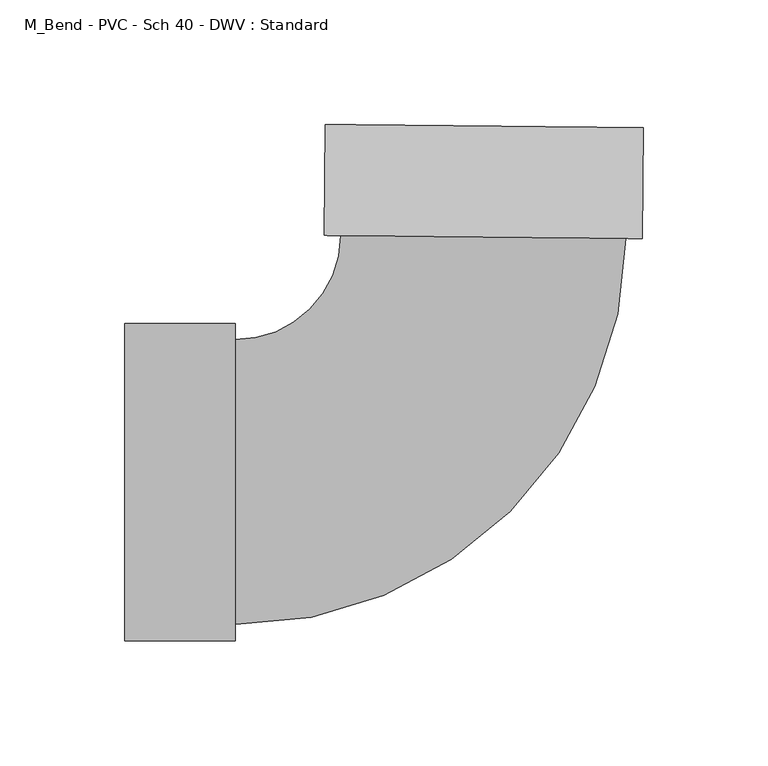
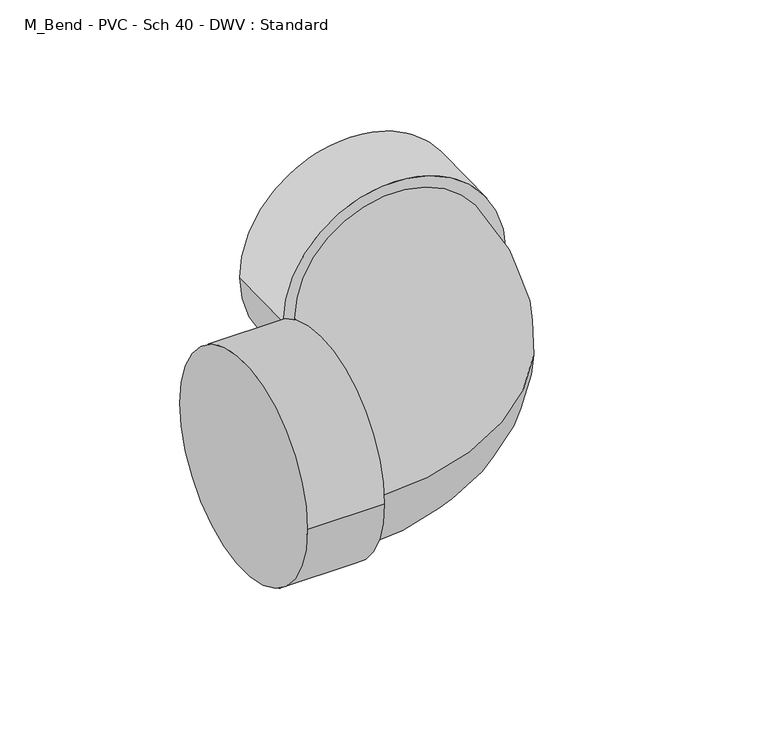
"""IFC4 building model written with IfcOpenShell, lengths in millimetres: pipe fitting geometry, M_Bend - PVC - Sch 40 - DWV : Standard."""

import ifcopenshell
import ifcopenshell.guid

model = None  # the IFC model being written
_history = None  # IfcOwnerHistory: only IFC2X3 demands one
_inside = {}  # id of a spatial element -> (the spatial element, [elements in it])
_under = {}  # id of a project, library or spatial element -> (it, [spatial elements below it])
_declared = {}  # id of a project -> (the project, [libraries it declares])
_typed = {}  # id of a type object -> (the type object, [elements of that type])
_made_of = {}  # id of a material, layer set ... -> (it, [elements and type objects made of it])


def new_model(schema):
    """Start an empty IFC model of exactly this schema.

    Asked for "IFC4X3", IfcOpenShell would pick the latest addendum, in which some entities
    have other attributes; the version numbers below select the first issue.
    IFC2X3 requires an IfcOwnerHistory on every rooted entity: one is made here for all.
    """
    global model, _history
    if schema == "IFC4X3":
        model = ifcopenshell.file(schema_version=(4, 3, 0, 0))
    else:
        model = ifcopenshell.file(schema=schema)
    _inside.clear()
    _under.clear()
    _declared.clear()
    _typed.clear()
    _made_of.clear()
    _history = None
    if model.schema == "IFC2X3":
        org = make("IfcOrganization", Name="unknown")
        user = make(
            "IfcPersonAndOrganization",
            ThePerson=make("IfcPerson", FamilyName="unknown"),
            TheOrganization=org,
        )
        app = make(
            "IfcApplication",
            ApplicationDeveloper=org,
            Version="unknown",
            ApplicationFullName="unknown",
            ApplicationIdentifier="unknown",
        )
        _history = make(
            "IfcOwnerHistory",
            OwningUser=user,
            OwningApplication=app,
            ChangeAction="ADDED",
            CreationDate=0,
        )
    return model


def make(cls, **values):
    """One entity of the class cls with the attributes given. An attribute that is None is left unset."""
    return model.create_entity(
        cls, **{name: value for name, value in values.items() if value is not None}
    )


def rooted(cls, **values):
    """An entity with a GlobalId (a new one), such as an element, a storey or a relation."""
    return make(cls, GlobalId=ifcopenshell.guid.new(), OwnerHistory=_history, **values)


def si_unit(unit_type, name, prefix=None):
    """IfcSIUnit, for example si_unit("LENGTHUNIT", "METRE", prefix="MILLI")."""
    return make("IfcSIUnit", UnitType=unit_type, Prefix=prefix, Name=name)


def assignment(units):
    """IfcUnitAssignment: the units of a project."""
    return None if units is None else make("IfcUnitAssignment", Units=units)


def point(xyz):
    """IfcCartesianPoint."""
    return None if xyz is None else make("IfcCartesianPoint", Coordinates=xyz)


def direction(xyz):
    """IfcDirection."""
    return None if xyz is None else make("IfcDirection", DirectionRatios=xyz)


def frame(location, z_axis=None, x_axis=None):
    """IfcAxis2Placement3D, a coordinate frame: its origin and axes. An axis left out is left unset."""
    return make(
        "IfcAxis2Placement3D",
        Location=point(location),
        Axis=direction(z_axis),
        RefDirection=direction(x_axis),
    )


def origin():
    """The frame at (0, 0, 0) with its axes left unset."""
    return frame((0.0, 0.0, 0.0))


def place(relative_to, where):
    """IfcLocalPlacement: puts the frame where relative to a parent placement (None: the world)."""
    return make(
        "IfcLocalPlacement", PlacementRelTo=relative_to, RelativePlacement=where
    )


def context(
    kind, dimensions, precision=None, world=None, true_north=None, identifier=None
):
    """IfcGeometricRepresentationContext, for example the 3D "Model" context."""
    return make(
        "IfcGeometricRepresentationContext",
        ContextIdentifier=identifier,
        ContextType=kind,
        CoordinateSpaceDimension=dimensions,
        Precision=precision,
        WorldCoordinateSystem=world,
        TrueNorth=true_north,
    )


def project(units=None, contexts=None):
    """IfcProject with its units and contexts."""
    return rooted(
        "IfcProject",
        Name="project",
        RepresentationContexts=contexts,
        UnitsInContext=assignment(units),
    )


def spatial(cls, under=None, at=None, **own):
    """A site, building, storey or space (cls), placed at a placement, below another one or the project."""
    s = rooted(cls, ObjectPlacement=at, **own)
    if under is not None:
        _under.setdefault(under.id(), (under, []))[1].append(s)
    return s


def circle_curve(where, radius):
    """IfcCircle in the frame where."""
    return make("IfcCircle", Position=where, Radius=radius)


def ellipse_curve(where, semi_axis1, semi_axis2):
    """IfcEllipse in the frame where."""
    return make(
        "IfcEllipse", Position=where, SemiAxis1=semi_axis1, SemiAxis2=semi_axis2
    )


def trimmed(basis, trim1, trim2, sense, master):
    """IfcTrimmedCurve: the piece of a basis curve between two trims."""
    return make(
        "IfcTrimmedCurve",
        BasisCurve=basis,
        Trim1=trim1,
        Trim2=trim2,
        SenseAgreement=sense,
        MasterRepresentation=master,
    )


def shape(context_of_items, identifier, shape_type, items):
    """IfcShapeRepresentation: the items that make up one representation, for example the "Body"."""
    return make(
        "IfcShapeRepresentation",
        ContextOfItems=context_of_items,
        RepresentationIdentifier=identifier,
        RepresentationType=shape_type,
        Items=items,
    )


def source(mapping_origin, context_of_items, identifier, shape_type, items):
    """IfcRepresentationMap: a shape defined once, which mapped items show again and again."""
    return make(
        "IfcRepresentationMap",
        MappingOrigin=mapping_origin,
        MappedRepresentation=shape(context_of_items, identifier, shape_type, items),
    )


def transform(
    local_origin,
    x_axis=None,
    y_axis=None,
    z_axis=None,
    scale=None,
    scale2=None,
    scale3=None,
    uniform=True,
):
    """IfcCartesianTransformationOperator3D, or its non-uniform kind. x_axis, y_axis, z_axis: its Axis1, 2, 3."""
    if uniform:
        return make(
            "IfcCartesianTransformationOperator3D",
            Axis1=direction(x_axis),
            Axis2=direction(y_axis),
            LocalOrigin=point(local_origin),
            Scale=scale,
            Axis3=direction(z_axis),
        )
    return make(
        "IfcCartesianTransformationOperator3DnonUniform",
        Axis1=direction(x_axis),
        Axis2=direction(y_axis),
        LocalOrigin=point(local_origin),
        Scale=scale,
        Axis3=direction(z_axis),
        Scale2=scale2,
        Scale3=scale3,
    )


def mapped(mapping_source, mapping_target):
    """IfcMappedItem: shows the shape of a source again, moved by a transform."""
    return make(
        "IfcMappedItem", MappingSource=mapping_source, MappingTarget=mapping_target
    )


def made_of(thing, what):
    """Note that an element or type object is made of a material, layer set ...; save() writes the relation."""
    if what is not None:
        _made_of.setdefault(what.id(), (what, []))[1].append(thing)
    return thing


def element(
    cls,
    number,
    at=None,
    inside=None,
    cuts=None,
    type_object=None,
    material=None,
    context=None,
    identifier="Body",
    shape_type=None,
    held_by="IfcProductDefinitionShape",
    body=None,
    shapes=None,
    **own,
):
    """One element of the class cls, such as IfcWall. Its Tag is "e" and its number.

    at: its placement. inside: the storey or other place that contains it. cuts: it is an
    opening in that element (IfcRelVoidsElement). A single representation is given by context,
    identifier, shape_type and body (its items); several are given by shapes. held_by: the class
    of the entity that holds the representations. save() writes the other relations.
    """
    e = rooted(cls, Tag="e%d" % number, ObjectPlacement=at, **own)
    if body is not None:
        shapes = [shape(context, identifier, shape_type, body)]
    if shapes is not None:
        e.Representation = make(held_by, Representations=shapes)
    if inside is not None:
        _inside.setdefault(inside.id(), (inside, []))[1].append(e)
    if cuts is not None:
        rooted(
            "IfcRelVoidsElement", RelatingBuildingElement=cuts, RelatedOpeningElement=e
        )
    if type_object is not None:
        _typed.setdefault(type_object.id(), (type_object, []))[1].append(e)
    return made_of(e, material)


def aggregate(whole, parts):
    """IfcRelAggregates: a whole, such as a stair, and the parts it consists of."""
    return rooted("IfcRelAggregates", RelatingObject=whole, RelatedObjects=parts)


def save(model, path):
    """Write the relations noted so far, then the file.

    IfcRelAggregates (storeys below a building ...), IfcRelContainedInSpatialStructure (elements
    in a storey), IfcRelDefinesByType, IfcRelAssociatesMaterial and IfcRelDeclares: one each for
    every whole, place, type object, material and project.
    """
    for whole, parts in _under.values():
        aggregate(whole, parts)
    for where, things in _inside.values():
        rooted(
            "IfcRelContainedInSpatialStructure",
            RelatedElements=things,
            RelatingStructure=where,
        )
    for kind, things in _typed.values():
        rooted("IfcRelDefinesByType", RelatedObjects=things, RelatingType=kind)
    for what, things in _made_of.values():
        rooted("IfcRelAssociatesMaterial", RelatedObjects=things, RelatingMaterial=what)
    for by, libraries in _declared.values():
        rooted("IfcRelDeclares", RelatingContext=by, RelatedDefinitions=libraries)
    model.write(path)


def plane_surface(at):
    """IfcPlane: the flat surface through the origin of the frame at, square to its z axis."""
    return make("IfcPlane", Position=at)


def cylinder_surface(at, radius):
    """IfcCylindricalSurface: all points at the distance radius from the z axis of the frame at."""
    return make("IfcCylindricalSurface", Position=at, Radius=radius)


def revolved_surface(curve, axis_point, axis_direction):
    """IfcSurfaceOfRevolution: the curve turned about the line through axis_point along axis_direction."""
    return make(
        "IfcSurfaceOfRevolution",
        SweptCurve=make("IfcArbitraryOpenProfileDef", ProfileType="CURVE", Curve=curve),
        AxisPosition=make("IfcAxis1Placement", Location=point(axis_point), Axis=direction(axis_direction)),
    )


def advanced_brep(points, edges, surfaces, faces):
    """IfcAdvancedBrep: a solid bounded by faces that lie on surfaces and meet in shared edges.

    An edge is (start, end): straight between two places in points (the first is 0);
    or (start, end, curve); or (start, end, curve, False) where it runs against its curve.
    A face is (place in surfaces, loops), or (place, loops, False) where it looks against
    its surface's normal. A loop lists edges by number (the first is 1), with a minus sign
    where the edge is run from its end to its start. The first loop is the outer one.
    """
    corners = [point(p) for p in points]
    vertices = [make("IfcVertexPoint", VertexGeometry=c) for c in corners]
    made = []
    for start, end, *more in edges:
        made.append(
            make(
                "IfcEdgeCurve",
                EdgeStart=vertices[start],
                EdgeEnd=vertices[end],
                EdgeGeometry=more[0] if more else make("IfcPolyline", Points=[corners[start], corners[end]]),
                SameSense=more[1] if len(more) > 1 else True,
            )
        )
    hull = []
    for where, loops, *sense in faces:
        bounds = []
        for j, loop in enumerate(loops):
            ring = [make("IfcOrientedEdge", EdgeElement=made[abs(k) - 1], Orientation=k > 0) for k in loop]
            bounds.append(
                make(
                    "IfcFaceOuterBound" if j == 0 else "IfcFaceBound",
                    Bound=make("IfcEdgeLoop", EdgeList=ring),
                    Orientation=True,
                )
            )
        hull.append(make("IfcAdvancedFace", Bounds=bounds, FaceSurface=surfaces[where], SameSense=sense[0] if sense else True))
    return make("IfcAdvancedBrep", Outer=make("IfcClosedShell", CfsFaces=hull))


def m_bend_pvc_sch_40_dwv_standard_aa7efa4c(model_context):
    return source(origin(), model_context, "Body", "AdvancedBrep", [
        advanced_brep(
        [(-142.875, -63.754, 0.0), (-142.875, 63.754, 0.0), (-98.425, -63.754, 0.0), (-98.425, 63.754, 0.0), (-98.425, -57.15, 0.0), (-98.425, 57.15, 0.0), (-56.1629419, 98.9915505, 0.0), (58.1313435, 97.8486077, 0.0), (64.7350133, 97.782571, 0.0), (-62.7666117, 99.0575872, 0.0), (65.1794911, 142.2303487, 0.0), (-62.322134, 143.5053649, 0.0)],
        [
            (0, 1, circle_curve(frame((-142.875, 0.0, 0.0), z_axis=(-1.0, 0.0, 0.0), x_axis=(0.0, 1.0, 0.0)), 63.754)),
            (1, 0, circle_curve(frame((-142.875, 0.0, 0.0), z_axis=(-1.0, 0.0, 0.0), x_axis=(0.0, 1.0, 0.0)), 63.754)),
            (2, 3, circle_curve(frame((-98.425, 0.0, 0.0), z_axis=(1.0, 0.0, 0.0), x_axis=(0.0, 1.0, 0.0)), 63.754)),
            (3, 2, circle_curve(frame((-98.425, 0.0, 0.0), z_axis=(1.0, 0.0, 0.0), x_axis=(0.0, 1.0, 0.0)), 63.754)),
            (4, 5, circle_curve(frame((-98.425, 0.0, 0.0), z_axis=(-1.0, 0.0, 0.0), x_axis=(0.0, 1.0, 0.0)), 57.15)),
            (5, 4, circle_curve(frame((-98.425, 0.0, 0.0), z_axis=(-1.0, 0.0, 0.0), x_axis=(0.0, 1.0, 0.0)), 57.15)),
            (0, 2),
            (3, 1),
            (6, 5, circle_curve(frame((-98.425, 99.4141711, 0.0), z_axis=(0.0, 0.0, -1.0), x_axis=(0.0, -1.0, 0.0)), 42.2641711)),
            (4, 7, circle_curve(frame((-98.425, 99.4141711, 0.0), z_axis=(0.0, 0.0, 1.0), x_axis=(0.0, -1.0, 0.0)), 156.5641711)),
            (7, 6, circle_curve(frame((0.9842008, 98.4200791, 0.0), z_axis=(-0.009999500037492, -0.9999500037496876, 0.0), x_axis=(-0.9999500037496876, 0.009999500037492, 0.0)), 57.15)),
            (6, 7, circle_curve(frame((0.9842008, 98.4200791, 0.0), z_axis=(-0.009999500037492, -0.9999500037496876, 0.0), x_axis=(-0.9999500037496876, 0.009999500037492, 0.0)), 57.15)),
            (8, 9, circle_curve(frame((0.9842008, 98.4200791, 0.0), z_axis=(-0.0099995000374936, -0.9999500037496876, 0.0), x_axis=(-0.9999500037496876, 0.0099995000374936, 0.0)), 63.754)),
            (9, 8, circle_curve(frame((0.9842008, 98.4200791, 0.0), z_axis=(-0.0099995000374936, -0.9999500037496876, 0.0), x_axis=(-0.9999500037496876, 0.0099995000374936, 0.0)), 63.754)),
            (10, 11, circle_curve(frame((1.4286786, 142.8678568, 0.0), z_axis=(0.0099995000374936, 0.9999500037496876, 0.0), x_axis=(-0.9999500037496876, 0.0099995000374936, 0.0)), 63.754)),
            (11, 10, circle_curve(frame((1.4286786, 142.8678568, 0.0), z_axis=(0.0099995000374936, 0.9999500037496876, 0.0), x_axis=(-0.9999500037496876, 0.0099995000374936, 0.0)), 63.754)),
            (8, 10),
            (11, 9),
        ],
        [
            plane_surface(frame((-142.875, 0.0, 0.0), z_axis=(-1.0, 0.0, 0.0), x_axis=(0.0, 0.0, 1.0))),
            plane_surface(frame((-98.425, 0.0, 0.0), z_axis=(1.0, 0.0, 0.0), x_axis=(0.0, 0.0, 1.0))),
            cylinder_surface(frame((-142.875, 0.0, 0.0), z_axis=(-1.0, 0.0, 0.0), x_axis=(0.0, 1.0, 0.0)), 63.754),
            revolved_surface(trimmed(ellipse_curve(frame((-98.425, 0.0, 0.0), z_axis=(-1.0, 0.0, 0.0), x_axis=(0.0, 1.0, 0.0)), 57.15, 57.15), [point((-98.425, -57.15, 0.0))], [point((-98.425, 57.15, 0.0))], True, "CARTESIAN"), (-98.425, 99.4141711, 0.0), (0.0, 0.0, 1.0)),
            revolved_surface(trimmed(ellipse_curve(frame((-98.425, 0.0, 0.0), z_axis=(-1.0, 0.0, 0.0), x_axis=(0.0, 1.0, 0.0)), 57.15, 57.15), [point((-98.425, 57.15, 0.0))], [point((-98.425, -57.15, 0.0))], True, "CARTESIAN"), (-98.425, 99.4141711, 0.0), (0.0, 0.0, 1.0)),
            plane_surface(frame((0.9842008, 98.4200791, 0.0), z_axis=(-0.009999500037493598, -0.9999500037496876, 0.0), x_axis=(0.0, 0.0, 1.0))),
            plane_surface(frame((1.4286786, 142.8678568, 0.0), z_axis=(0.009999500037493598, 0.9999500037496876, 0.0), x_axis=(0.0, 0.0, 1.0))),
            cylinder_surface(frame((0.9842008, 98.4200791, 0.0), z_axis=(-0.0099995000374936, -0.9999500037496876, 0.0), x_axis=(-0.9999500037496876, 0.0099995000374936, 0.0)), 63.754),
        ],
        [
            (0, [[1, 2]]),
            (1, [[3, 4], [5, 6]]),
            (2, [[-1, 7, -4, 8]]),
            (2, [[-2, -8, -3, -7]]),
            (3, [[9, -5, 10, 11]]),
            (4, [[-9, 12, -10, -6]]),
            (5, [[13, 14], [-11, -12]]),
            (6, [[15, 16]]),
            (7, [[-13, 17, -16, 18]]),
            (7, [[-14, -18, -15, -17]]),
        ],
    ),
    ])


if __name__ == "__main__":
    model = new_model("IFC4")
    model_context = context("Model", 3, world=origin())
    ifc_project = project(units=[si_unit("LENGTHUNIT", "METRE", prefix="MILLI")], contexts=[model_context])
    site = spatial("IfcSite", under=ifc_project)
    building = spatial("IfcBuilding", under=site)
    placement = place(None, origin())
    m_bend_pvc_sch_40_dwv_standard_shape = m_bend_pvc_sch_40_dwv_standard_aa7efa4c(model_context)
    element("IfcPipeFitting", 1, ObjectType="M_Bend - PVC - Sch 40 - DWV : Standard", at=placement, inside=building, context=model_context, shape_type="MappedRepresentation", body=[
        mapped(m_bend_pvc_sch_40_dwv_standard_shape, transform((0.0, 0.0, 0.0), x_axis=(1.0, 0.0, 0.0), y_axis=(0.0, 1.0, 0.0), z_axis=(0.0, 0.0, 1.0))),
    ])
    save(model, "model.ifc")
